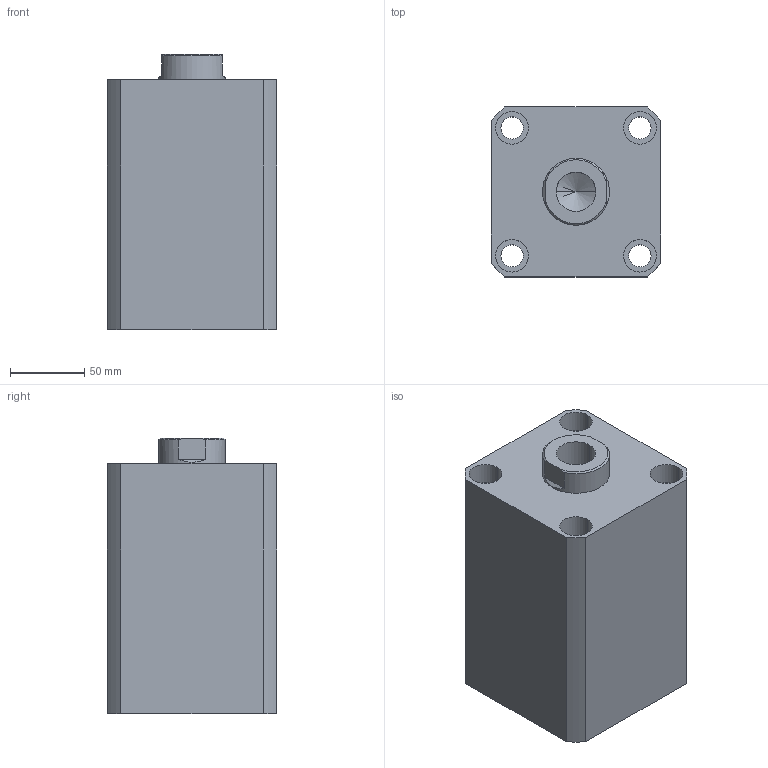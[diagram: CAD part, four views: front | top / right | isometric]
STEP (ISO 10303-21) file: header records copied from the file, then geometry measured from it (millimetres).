
FILE_DESCRIPTION (( 'STEP AP203' ), '1' );
FILE_NAME ('HTB-SDMB80-90N.STEP', '2019-10-09T06:13:30', ( '微软用户' ), ( '微软中国' ), 'SwSTEP 2.0', 'SolidWorks 2012', '' );
FILE_SCHEMA (( 'CONFIG_CONTROL_DESIGN' ));
Length unit declared in the file: millimetre
Products named in the file (3): HTB-SDMB80-90掛极; HTB-SDMB80-90N活塞杆; HTB-SDMB80-90N
Assembly tree (2 placements, depth 2):
  HTB-SDMB80-90N
    HTB-SDMB80-90掛极
    HTB-SDMB80-90N活塞杆
Bounding box: 114 x 114 x 185 mm (x, y, z)
Volume: 1707654.1 mm3; surface area: 214548.9 mm2
Topology: 2 solids, 2 shells, 137 faces, 331 edges, 217 vertices
Faces by surface type: plane 65, cylinder 46, bspline 16, torus 6, cone 4
Entity records: 5070 total; most frequent: CARTESIAN_POINT 1576, ORIENTED_EDGE 658, DIRECTION 647, EDGE_CURVE 329, AXIS2_PLACEMENT_3D 232, VERTEX_POINT 217, LINE 183, VECTOR 183
